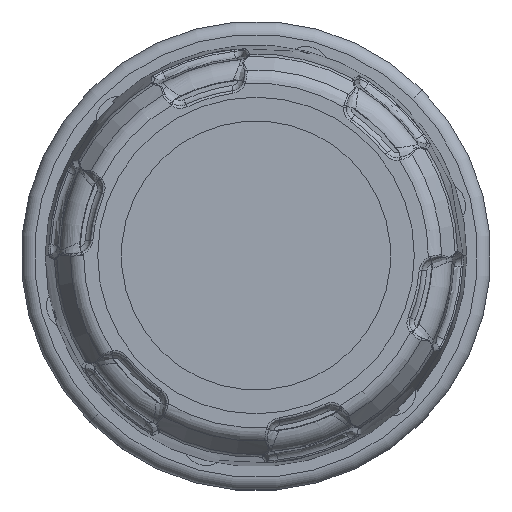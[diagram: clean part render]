
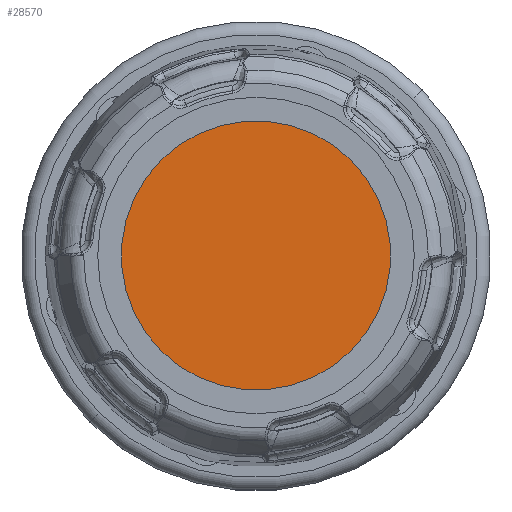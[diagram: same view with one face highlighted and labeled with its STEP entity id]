
A CAD part, top view. The second image highlights one B-rep face of the part: STEP entity #28570.
In plain terms, the highlighted planar face has unit normal (0, 0, 1).
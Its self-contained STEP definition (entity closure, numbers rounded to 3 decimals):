
#11487=CARTESIAN_POINT('',(0.,0.,38.625));
#11488=DIRECTION('',(0.,0.,1.));
#11489=DIRECTION('',(-0.707,-0.707,0.));
#11490=AXIS2_PLACEMENT_3D('',#11487,#11488,#11489);
#11495=CARTESIAN_POINT('',(0.,0.,38.625));
#11496=DIRECTION('',(0.,0.,1.));
#11497=DIRECTION('',(0.707,0.707,0.));
#11498=AXIS2_PLACEMENT_3D('',#11495,#11496,#11497);
#14294=CARTESIAN_POINT('',(-18.031,-18.031,38.625));
#14295=CARTESIAN_POINT('',(18.031,18.031,38.625));
#14296=VERTEX_POINT('',#14294);
#14297=VERTEX_POINT('',#14295);
#28561=CARTESIAN_POINT('',(0.,0.,38.625));
#28562=DIRECTION('',(0.,0.,1.));
#28563=DIRECTION('',(-0.707,0.707,0.));
#28564=AXIS2_PLACEMENT_3D('',#28561,#28562,#28563);
#28565=PLANE('',#28564);
#28566=ORIENTED_EDGE('',*,*,#28541,.F.);
#28567=ORIENTED_EDGE('',*,*,#28555,.F.);
#28568=EDGE_LOOP('',(#28566,#28567));
#28569=FACE_OUTER_BOUND('',#28568,.F.);
#11491=CIRCLE('',#11490,25.5);
#11499=CIRCLE('',#11498,25.5);
#28541=EDGE_CURVE('',#14296,#14297,#11491,.T.);
#28555=EDGE_CURVE('',#14297,#14296,#11499,.T.);
#28570=ADVANCED_FACE('',(#28569),#28565,.T.);
